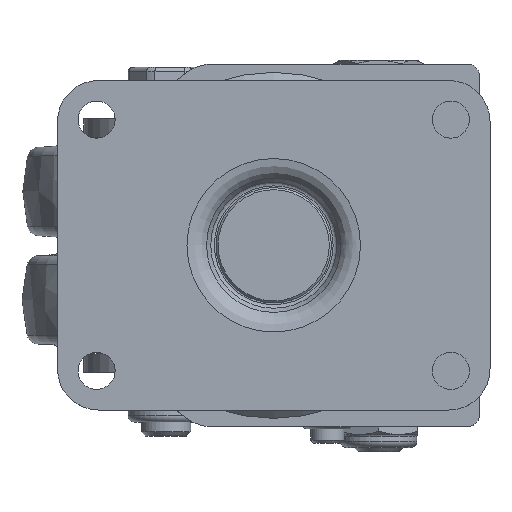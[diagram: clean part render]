
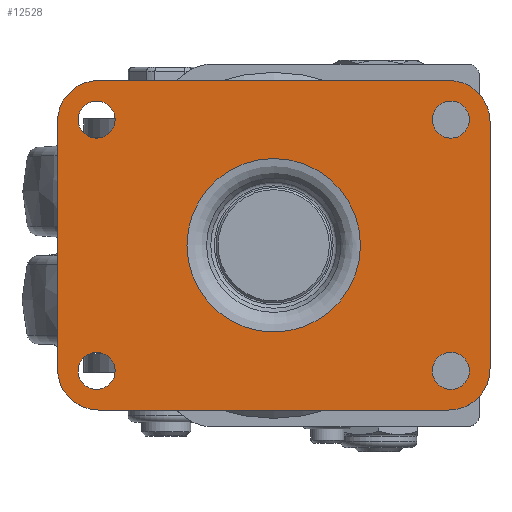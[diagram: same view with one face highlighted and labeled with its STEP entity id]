
A CAD part, top view. The second image highlights one B-rep face of the part: STEP entity #12528.
In plain terms, the highlighted planar face has unit normal (0, 0, 1).
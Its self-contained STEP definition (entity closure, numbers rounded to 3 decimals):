
#211=FACE_BOUND('',#1756,.T.);
#212=FACE_BOUND('',#1757,.T.);
#213=FACE_BOUND('',#1758,.T.);
#214=FACE_BOUND('',#1759,.T.);
#215=FACE_BOUND('',#1760,.T.);
#416=PLANE('',#13377);
#1034=FACE_OUTER_BOUND('',#1755,.T.);
#1755=EDGE_LOOP('',(#8405,#8406,#8407,#8408,#8409,#8410,#8411,#8412));
#1756=EDGE_LOOP('',(#8413));
#1757=EDGE_LOOP('',(#8414));
#1758=EDGE_LOOP('',(#8415));
#1759=EDGE_LOOP('',(#8416));
#1760=EDGE_LOOP('',(#8417));
#2530=CIRCLE('',#13362,10.);
#2540=CIRCLE('',#13375,10.);
#2541=CIRCLE('',#13378,10.);
#2542=CIRCLE('',#13379,10.);
#2543=CIRCLE('',#13380,21.062);
#2544=CIRCLE('',#13381,4.5);
#2545=CIRCLE('',#13382,4.5);
#2546=CIRCLE('',#13383,4.5);
#2547=CIRCLE('',#13384,4.5);
#3279=LINE('',#19030,#4111);
#3285=LINE('',#19061,#4117);
#3287=LINE('',#19067,#4119);
#3288=LINE('',#19069,#4120);
#4111=VECTOR('',#15129,10.);
#4117=VECTOR('',#15159,10.);
#4119=VECTOR('',#15165,10.);
#4120=VECTOR('',#15168,10.);
#5024=VERTEX_POINT('',#19017);
#5025=VERTEX_POINT('',#19018);
#5029=VERTEX_POINT('',#19028);
#5040=VERTEX_POINT('',#19054);
#5041=VERTEX_POINT('',#19055);
#5042=VERTEX_POINT('',#19060);
#5043=VERTEX_POINT('',#19064);
#5044=VERTEX_POINT('',#19066);
#5045=VERTEX_POINT('',#19070);
#5046=VERTEX_POINT('',#19072);
#5047=VERTEX_POINT('',#19074);
#5048=VERTEX_POINT('',#19076);
#5049=VERTEX_POINT('',#19078);
#6298=EDGE_CURVE('',#5024,#5025,#2530,.T.);
#6304=EDGE_CURVE('',#5024,#5029,#3279,.T.);
#6316=EDGE_CURVE('',#5040,#5041,#2540,.T.);
#6319=EDGE_CURVE('',#5042,#5041,#3285,.T.);
#6321=EDGE_CURVE('',#5043,#5029,#2541,.T.);
#6322=EDGE_CURVE('',#5043,#5044,#3287,.T.);
#6323=EDGE_CURVE('',#5042,#5044,#2542,.T.);
#6324=EDGE_CURVE('',#5040,#5025,#3288,.T.);
#6325=EDGE_CURVE('',#5045,#5045,#2543,.T.);
#6326=EDGE_CURVE('',#5046,#5046,#2544,.T.);
#6327=EDGE_CURVE('',#5047,#5047,#2545,.T.);
#6328=EDGE_CURVE('',#5048,#5048,#2546,.T.);
#6329=EDGE_CURVE('',#5049,#5049,#2547,.T.);
#8405=ORIENTED_EDGE('',*,*,#6298,.F.);
#8406=ORIENTED_EDGE('',*,*,#6304,.T.);
#8407=ORIENTED_EDGE('',*,*,#6321,.F.);
#8408=ORIENTED_EDGE('',*,*,#6322,.T.);
#8409=ORIENTED_EDGE('',*,*,#6323,.F.);
#8410=ORIENTED_EDGE('',*,*,#6319,.T.);
#8411=ORIENTED_EDGE('',*,*,#6316,.F.);
#8412=ORIENTED_EDGE('',*,*,#6324,.T.);
#8413=ORIENTED_EDGE('',*,*,#6325,.F.);
#8414=ORIENTED_EDGE('',*,*,#6326,.T.);
#8415=ORIENTED_EDGE('',*,*,#6327,.T.);
#8416=ORIENTED_EDGE('',*,*,#6328,.T.);
#8417=ORIENTED_EDGE('',*,*,#6329,.T.);
#12528=ADVANCED_FACE('',(#1034,#211,#212,#213,#214,#215),#416,.T.);
#13362=AXIS2_PLACEMENT_3D('',#19019,#15119,#15120);
#13375=AXIS2_PLACEMENT_3D('',#19056,#15153,#15154);
#13377=AXIS2_PLACEMENT_3D('',#19063,#15161,#15162);
#13378=AXIS2_PLACEMENT_3D('',#19065,#15163,#15164);
#13379=AXIS2_PLACEMENT_3D('',#19068,#15166,#15167);
#13380=AXIS2_PLACEMENT_3D('',#19071,#15169,#15170);
#13381=AXIS2_PLACEMENT_3D('',#19073,#15171,#15172);
#13382=AXIS2_PLACEMENT_3D('',#19075,#15173,#15174);
#13383=AXIS2_PLACEMENT_3D('',#19077,#15175,#15176);
#13384=AXIS2_PLACEMENT_3D('',#19079,#15177,#15178);
#15119=DIRECTION('center_axis',(0.,0.,-1.));
#15120=DIRECTION('ref_axis',(0.707,-0.707,0.));
#15129=DIRECTION('',(0.,1.,0.));
#15153=DIRECTION('center_axis',(0.,0.,-1.));
#15154=DIRECTION('ref_axis',(-0.707,-0.707,0.));
#15159=DIRECTION('',(0.,-1.,0.));
#15161=DIRECTION('center_axis',(0.,0.,1.));
#15162=DIRECTION('ref_axis',(1.,0.,0.));
#15163=DIRECTION('center_axis',(0.,0.,-1.));
#15164=DIRECTION('ref_axis',(0.707,0.707,0.));
#15165=DIRECTION('',(-1.,0.,0.));
#15166=DIRECTION('center_axis',(0.,0.,-1.));
#15167=DIRECTION('ref_axis',(-0.707,0.707,0.));
#15168=DIRECTION('',(1.,0.,0.));
#15169=DIRECTION('center_axis',(0.,0.,1.));
#15170=DIRECTION('ref_axis',(1.,0.,0.));
#15171=DIRECTION('center_axis',(0.,0.,-1.));
#15172=DIRECTION('ref_axis',(1.,0.,0.));
#15173=DIRECTION('center_axis',(0.,0.,-1.));
#15174=DIRECTION('ref_axis',(1.,0.,0.));
#15175=DIRECTION('center_axis',(0.,0.,-1.));
#15176=DIRECTION('ref_axis',(1.,0.,0.));
#15177=DIRECTION('center_axis',(0.,0.,-1.));
#15178=DIRECTION('ref_axis',(1.,0.,0.));
#19017=CARTESIAN_POINT('',(52.5,-30.,0.));
#19018=CARTESIAN_POINT('',(42.5,-40.,0.));
#19019=CARTESIAN_POINT('Origin',(42.5,-30.,0.));
#19028=CARTESIAN_POINT('',(52.5,30.,0.));
#19030=CARTESIAN_POINT('',(52.5,-40.,0.));
#19054=CARTESIAN_POINT('',(-42.5,-40.,0.));
#19055=CARTESIAN_POINT('',(-52.5,-30.,0.));
#19056=CARTESIAN_POINT('Origin',(-42.5,-30.,0.));
#19060=CARTESIAN_POINT('',(-52.5,30.,0.));
#19061=CARTESIAN_POINT('',(-52.5,40.,0.));
#19063=CARTESIAN_POINT('Origin',(0.,0.,0.));
#19064=CARTESIAN_POINT('',(42.5,40.,0.));
#19065=CARTESIAN_POINT('Origin',(42.5,30.,0.));
#19066=CARTESIAN_POINT('',(-42.5,40.,0.));
#19067=CARTESIAN_POINT('',(52.5,40.,0.));
#19068=CARTESIAN_POINT('Origin',(-42.5,30.,0.));
#19069=CARTESIAN_POINT('',(-52.5,-40.,0.));
#19070=CARTESIAN_POINT('',(21.062,0.,0.));
#19071=CARTESIAN_POINT('Origin',(0.,0.,0.));
#19072=CARTESIAN_POINT('',(-47.5,-30.5,0.));
#19073=CARTESIAN_POINT('Origin',(-43.,-30.5,0.));
#19074=CARTESIAN_POINT('',(38.5,30.5,0.));
#19075=CARTESIAN_POINT('Origin',(43.,30.5,0.));
#19076=CARTESIAN_POINT('',(-47.5,30.5,0.));
#19077=CARTESIAN_POINT('Origin',(-43.,30.5,0.));
#19078=CARTESIAN_POINT('',(38.5,-30.5,0.));
#19079=CARTESIAN_POINT('Origin',(43.,-30.5,0.));
